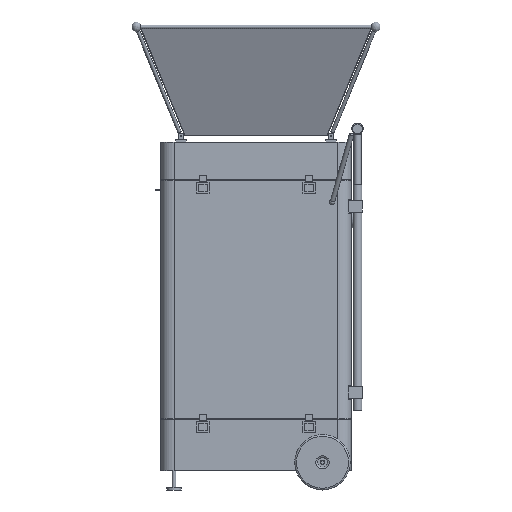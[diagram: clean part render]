
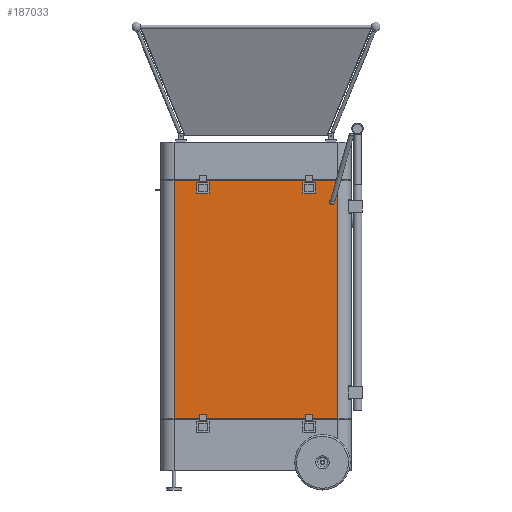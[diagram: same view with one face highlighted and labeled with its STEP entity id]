
A CAD part, left-side view. The second image highlights one B-rep face of the part: STEP entity #187033.
In plain terms, the highlighted planar face has unit normal (-1, 0, 0).
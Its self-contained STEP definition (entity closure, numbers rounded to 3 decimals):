
#185025 = PLANE('',#185026);
#185026 = AXIS2_PLACEMENT_3D('',#185027,#185028,#185029);
#185027 = CARTESIAN_POINT('',(0.,0.,161.));
#185028 = DIRECTION('',(0.,0.,1.));
#185029 = DIRECTION('',(1.,0.,-0.));
#185053 = CYLINDRICAL_SURFACE('',#185054,30.);
#185054 = AXIS2_PLACEMENT_3D('',#185055,#185056,#185057);
#185055 = CARTESIAN_POINT('',(-130.,-185.,161.));
#185056 = DIRECTION('',(0.,0.,1.));
#185057 = DIRECTION('',(0.,-1.,0.));
#185537 = VERTEX_POINT('',#185538);
#185538 = CARTESIAN_POINT('',(-160.,185.,161.));
#185553 = CYLINDRICAL_SURFACE('',#185554,30.);
#185554 = AXIS2_PLACEMENT_3D('',#185555,#185556,#185557);
#185555 = CARTESIAN_POINT('',(-130.,185.,161.));
#185556 = DIRECTION('',(0.,0.,1.));
#185557 = DIRECTION('',(-0.,1.,0.));
#185565 = EDGE_CURVE('',#185537,#185566,#185568,.T.);
#185566 = VERTEX_POINT('',#185567);
#185567 = CARTESIAN_POINT('',(-160.,-185.,161.));
#185568 = SURFACE_CURVE('',#185569,(#185573,#185580),.PCURVE_S1.);
#185569 = LINE('',#185570,#185571);
#185570 = CARTESIAN_POINT('',(-160.,215.,161.));
#185571 = VECTOR('',#185572,1.);
#185572 = DIRECTION('',(0.,-1.,0.));
#185573 = PCURVE('',#185025,#185574);
#185574 = DEFINITIONAL_REPRESENTATION('',(#185575),#185579);
#185575 = LINE('',#185576,#185577);
#185576 = CARTESIAN_POINT('',(-160.,215.));
#185577 = VECTOR('',#185578,1.);
#185578 = DIRECTION('',(0.,-1.));
#185579 = ( GEOMETRIC_REPRESENTATION_CONTEXT(2) 
PARAMETRIC_REPRESENTATION_CONTEXT() REPRESENTATION_CONTEXT('2D SPACE',''
  ) );
#185580 = PCURVE('',#185581,#185586);
#185581 = PLANE('',#185582);
#185582 = AXIS2_PLACEMENT_3D('',#185583,#185584,#185585);
#185583 = CARTESIAN_POINT('',(-160.,215.,161.));
#185584 = DIRECTION('',(1.,0.,-0.));
#185585 = DIRECTION('',(0.,-1.,0.));
#185586 = DEFINITIONAL_REPRESENTATION('',(#185587),#185591);
#185587 = LINE('',#185588,#185589);
#185588 = CARTESIAN_POINT('',(0.,0.));
#185589 = VECTOR('',#185590,1.);
#185590 = DIRECTION('',(1.,0.));
#185591 = ( GEOMETRIC_REPRESENTATION_CONTEXT(2) 
PARAMETRIC_REPRESENTATION_CONTEXT() REPRESENTATION_CONTEXT('2D SPACE',''
  ) );
#185886 = PLANE('',#185887);
#185887 = AXIS2_PLACEMENT_3D('',#185888,#185889,#185890);
#185888 = CARTESIAN_POINT('',(0.,0.,699.));
#185889 = DIRECTION('',(0.,0.,1.));
#185890 = DIRECTION('',(1.,0.,-0.));
#186625 = EDGE_CURVE('',#185566,#186626,#186628,.T.);
#186626 = VERTEX_POINT('',#186627);
#186627 = CARTESIAN_POINT('',(-160.,-185.,699.));
#186628 = SURFACE_CURVE('',#186629,(#186633,#186640),.PCURVE_S1.);
#186629 = LINE('',#186630,#186631);
#186630 = CARTESIAN_POINT('',(-160.,-185.,161.));
#186631 = VECTOR('',#186632,1.);
#186632 = DIRECTION('',(0.,0.,1.));
#186633 = PCURVE('',#185053,#186634);
#186634 = DEFINITIONAL_REPRESENTATION('',(#186635),#186639);
#186635 = LINE('',#186636,#186637);
#186636 = CARTESIAN_POINT('',(-1.571,0.));
#186637 = VECTOR('',#186638,1.);
#186638 = DIRECTION('',(-0.,1.));
#186639 = ( GEOMETRIC_REPRESENTATION_CONTEXT(2) 
PARAMETRIC_REPRESENTATION_CONTEXT() REPRESENTATION_CONTEXT('2D SPACE',''
  ) );
#186640 = PCURVE('',#185581,#186641);
#186641 = DEFINITIONAL_REPRESENTATION('',(#186642),#186646);
#186642 = LINE('',#186643,#186644);
#186643 = CARTESIAN_POINT('',(400.,0.));
#186644 = VECTOR('',#186645,1.);
#186645 = DIRECTION('',(0.,-1.));
#186646 = ( GEOMETRIC_REPRESENTATION_CONTEXT(2) 
PARAMETRIC_REPRESENTATION_CONTEXT() REPRESENTATION_CONTEXT('2D SPACE',''
  ) );
#187033 = ADVANCED_FACE('',(#187034,#187082),#185581,.F.);
#187034 = FACE_BOUND('',#187035,.F.);
#187035 = EDGE_LOOP('',(#187036,#187037,#187060,#187081));
#187036 = ORIENTED_EDGE('',*,*,#185565,.F.);
#187037 = ORIENTED_EDGE('',*,*,#187038,.T.);
#187038 = EDGE_CURVE('',#185537,#187039,#187041,.T.);
#187039 = VERTEX_POINT('',#187040);
#187040 = CARTESIAN_POINT('',(-160.,185.,699.));
#187041 = SURFACE_CURVE('',#187042,(#187046,#187053),.PCURVE_S1.);
#187042 = LINE('',#187043,#187044);
#187043 = CARTESIAN_POINT('',(-160.,185.,161.));
#187044 = VECTOR('',#187045,1.);
#187045 = DIRECTION('',(0.,0.,1.));
#187046 = PCURVE('',#185581,#187047);
#187047 = DEFINITIONAL_REPRESENTATION('',(#187048),#187052);
#187048 = LINE('',#187049,#187050);
#187049 = CARTESIAN_POINT('',(30.,0.));
#187050 = VECTOR('',#187051,1.);
#187051 = DIRECTION('',(0.,-1.));
#187052 = ( GEOMETRIC_REPRESENTATION_CONTEXT(2) 
PARAMETRIC_REPRESENTATION_CONTEXT() REPRESENTATION_CONTEXT('2D SPACE',''
  ) );
#187053 = PCURVE('',#185553,#187054);
#187054 = DEFINITIONAL_REPRESENTATION('',(#187055),#187059);
#187055 = LINE('',#187056,#187057);
#187056 = CARTESIAN_POINT('',(1.571,0.));
#187057 = VECTOR('',#187058,1.);
#187058 = DIRECTION('',(0.,1.));
#187059 = ( GEOMETRIC_REPRESENTATION_CONTEXT(2) 
PARAMETRIC_REPRESENTATION_CONTEXT() REPRESENTATION_CONTEXT('2D SPACE',''
  ) );
#187060 = ORIENTED_EDGE('',*,*,#187061,.T.);
#187061 = EDGE_CURVE('',#187039,#186626,#187062,.T.);
#187062 = SURFACE_CURVE('',#187063,(#187067,#187074),.PCURVE_S1.);
#187063 = LINE('',#187064,#187065);
#187064 = CARTESIAN_POINT('',(-160.,215.,699.));
#187065 = VECTOR('',#187066,1.);
#187066 = DIRECTION('',(0.,-1.,0.));
#187067 = PCURVE('',#185581,#187068);
#187068 = DEFINITIONAL_REPRESENTATION('',(#187069),#187073);
#187069 = LINE('',#187070,#187071);
#187070 = CARTESIAN_POINT('',(0.,-538.));
#187071 = VECTOR('',#187072,1.);
#187072 = DIRECTION('',(1.,0.));
#187073 = ( GEOMETRIC_REPRESENTATION_CONTEXT(2) 
PARAMETRIC_REPRESENTATION_CONTEXT() REPRESENTATION_CONTEXT('2D SPACE',''
  ) );
#187074 = PCURVE('',#185886,#187075);
#187075 = DEFINITIONAL_REPRESENTATION('',(#187076),#187080);
#187076 = LINE('',#187077,#187078);
#187077 = CARTESIAN_POINT('',(-160.,215.));
#187078 = VECTOR('',#187079,1.);
#187079 = DIRECTION('',(0.,-1.));
#187080 = ( GEOMETRIC_REPRESENTATION_CONTEXT(2) 
PARAMETRIC_REPRESENTATION_CONTEXT() REPRESENTATION_CONTEXT('2D SPACE',''
  ) );
#187081 = ORIENTED_EDGE('',*,*,#186625,.F.);
#187082 = FACE_BOUND('',#187083,.F.);
#187083 = EDGE_LOOP('',(#187084));
#187084 = ORIENTED_EDGE('',*,*,#187085,.T.);
#187085 = EDGE_CURVE('',#187086,#187086,#187088,.T.);
#187086 = VERTEX_POINT('',#187087);
#187087 = CARTESIAN_POINT('',(-160.,-168.5,650.));
#187088 = SURFACE_CURVE('',#187089,(#187094,#187105),.PCURVE_S1.);
#187089 = CIRCLE('',#187090,3.5);
#187090 = AXIS2_PLACEMENT_3D('',#187091,#187092,#187093);
#187091 = CARTESIAN_POINT('',(-160.,-172.,650.));
#187092 = DIRECTION('',(-1.,0.,0.));
#187093 = DIRECTION('',(0.,1.,0.));
#187094 = PCURVE('',#185581,#187095);
#187095 = DEFINITIONAL_REPRESENTATION('',(#187096),#187104);
#187096 = ( BOUNDED_CURVE() B_SPLINE_CURVE(2,(#187097,#187098,#187099,
    #187100,#187101,#187102,#187103),.UNSPECIFIED.,.T.,.F.) 
B_SPLINE_CURVE_WITH_KNOTS((1,2,2,2,2,1),(-2.094,0.,
    2.094,4.189,6.283,8.378),
.UNSPECIFIED.) CURVE() GEOMETRIC_REPRESENTATION_ITEM() 
RATIONAL_B_SPLINE_CURVE((1.,0.5,1.,0.5,1.,0.5,1.)) REPRESENTATION_ITEM(
  '') );
#187097 = CARTESIAN_POINT('',(383.5,-489.));
#187098 = CARTESIAN_POINT('',(383.5,-482.938));
#187099 = CARTESIAN_POINT('',(388.75,-485.969));
#187100 = CARTESIAN_POINT('',(394.,-489.));
#187101 = CARTESIAN_POINT('',(388.75,-492.031));
#187102 = CARTESIAN_POINT('',(383.5,-495.062));
#187103 = CARTESIAN_POINT('',(383.5,-489.));
#187104 = ( GEOMETRIC_REPRESENTATION_CONTEXT(2) 
PARAMETRIC_REPRESENTATION_CONTEXT() REPRESENTATION_CONTEXT('2D SPACE',''
  ) );
#187105 = PCURVE('',#187106,#187111);
#187106 = CYLINDRICAL_SURFACE('',#187107,3.5);
#187107 = AXIS2_PLACEMENT_3D('',#187108,#187109,#187110);
#187108 = CARTESIAN_POINT('',(-161.,-172.,650.));
#187109 = DIRECTION('',(-1.,-0.,-0.));
#187110 = DIRECTION('',(0.,1.,0.));
#187111 = DEFINITIONAL_REPRESENTATION('',(#187112),#187116);
#187112 = LINE('',#187113,#187114);
#187113 = CARTESIAN_POINT('',(-6.283,-1.));
#187114 = VECTOR('',#187115,1.);
#187115 = DIRECTION('',(1.,-0.));
#187116 = ( GEOMETRIC_REPRESENTATION_CONTEXT(2) 
PARAMETRIC_REPRESENTATION_CONTEXT() REPRESENTATION_CONTEXT('2D SPACE',''
  ) );
